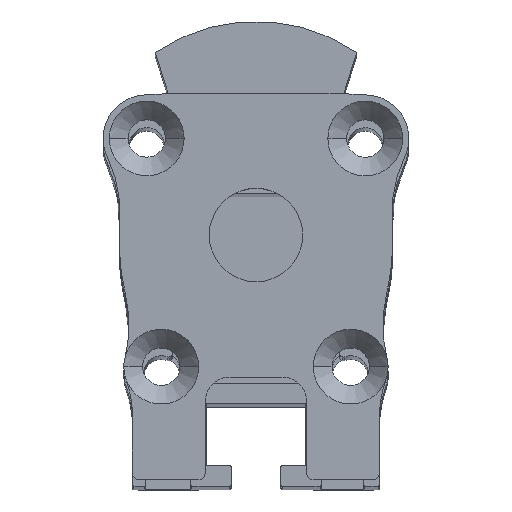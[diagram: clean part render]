
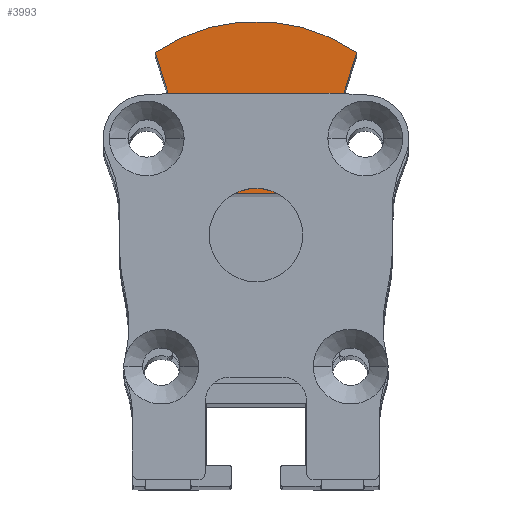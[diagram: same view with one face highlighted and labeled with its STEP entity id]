
A CAD part, top view. The second image highlights one B-rep face of the part: STEP entity #3993.
In plain terms, the highlighted planar face has unit normal (0, 0, 1).
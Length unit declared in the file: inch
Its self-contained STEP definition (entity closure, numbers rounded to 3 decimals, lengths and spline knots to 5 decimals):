
#3993=ADVANCED_FACE('',(#7809),#7810,.T.);
#4001=EDGE_CURVE('',#7813,#7819,#7822,.T.);
#4007=EDGE_CURVE('',#7827,#7819,#7830,.F.);
#4029=EDGE_CURVE('',#7861,#7862,#7863,.F.);
#4035=EDGE_CURVE('',#7869,#7870,#7871,.F.);
#4041=EDGE_CURVE('',#7870,#7861,#7877,.F.);
#4043=EDGE_CURVE('',#7869,#7879,#7880,.F.);
#4047=EDGE_CURVE('',#7813,#7862,#7884,.F.);
#4049=EDGE_CURVE('',#7886,#7887,#7888,.F.);
#4055=EDGE_CURVE('',#7827,#7894,#7895,.F.);
#4059=EDGE_CURVE('',#7894,#7886,#7899,.F.);
#4063=EDGE_CURVE('',#7901,#7887,#7904,.F.);
#4065=EDGE_CURVE('',#7879,#7901,#7906,.F.);
#7809=FACE_OUTER_BOUND('',#17732,.T.);
#7810=PLANE('',#17733);
#7813=VERTEX_POINT('',#17737);
#7819=VERTEX_POINT('',#17747);
#7822=LINE('',#17752,#17753);
#7827=VERTEX_POINT('',#17761);
#7830=LINE('',#17766,#17767);
#7861=VERTEX_POINT('',#17818);
#7862=VERTEX_POINT('',#17819);
#7863=LINE('',#17820,#17821);
#7869=VERTEX_POINT('',#17832);
#7870=VERTEX_POINT('',#17833);
#7871=LINE('',#17834,#17835);
#7877=LINE('',#17846,#17847);
#7879=VERTEX_POINT('',#17850);
#7880=LINE('',#17851,#17852);
#7884=LINE('',#17859,#17860);
#7886=VERTEX_POINT('',#17863);
#7887=VERTEX_POINT('',#17864);
#7888=LINE('',#17865,#17866);
#7894=VERTEX_POINT('',#17877);
#7895=LINE('',#17878,#17879);
#7899=LINE('',#17886,#17887);
#7901=VERTEX_POINT('',#17890);
#7904=LINE('',#17895,#17896);
#7906=CIRCLE('',#17899,0.56299);
#17732=EDGE_LOOP('',(#23441,#23442,#23443,#23444,#23445,#23446,#23447,#23448,#23449,#23450,#23451,#23452));
#17733=AXIS2_PLACEMENT_3D('',#23453,#23454,#23455);
#17737=CARTESIAN_POINT('',(-0.17932,0.15296,-4.59404));
#17747=CARTESIAN_POINT('',(0.17932,0.15296,-4.59404));
#17752=CARTESIAN_POINT('',(0.,0.15296,-4.59404));
#17753=VECTOR('',#23459,1.0);
#17761=CARTESIAN_POINT('',(0.26301,0.4208,-4.59404));
#17766=CARTESIAN_POINT('',(0.19145,0.19179,-4.59404));
#17767=VECTOR('',#23462,1.0);
#17818=CARTESIAN_POINT('',(-0.21005,0.4208,-4.59404));
#17819=CARTESIAN_POINT('',(-0.26301,0.4208,-4.59404));
#17820=CARTESIAN_POINT('',(-0.12298,0.4208,-4.59404));
#17821=VECTOR('',#23475,1.0);
#17832=CARTESIAN_POINT('',(-0.27532,0.46017,-4.59404));
#17833=CARTESIAN_POINT('',(-0.21005,0.46017,-4.59404));
#17834=CARTESIAN_POINT('',(-0.12298,0.46017,-4.59404));
#17835=VECTOR('',#23478,1.0);
#17846=CARTESIAN_POINT('',(-0.21005,0.35333,-4.59404));
#17847=VECTOR('',#23481,1.0);
#17850=CARTESIAN_POINT('',(-0.31832,0.59777,-4.59404));
#17851=CARTESIAN_POINT('',(-0.19145,0.19179,-4.59404));
#17852=VECTOR('',#23482,1.0);
#17859=CARTESIAN_POINT('',(-0.19145,0.19179,-4.59404));
#17860=VECTOR('',#23484,1.0);
#17863=CARTESIAN_POINT('',(0.20856,0.46017,-4.59404));
#17864=CARTESIAN_POINT('',(0.27532,0.46017,-4.59404));
#17865=CARTESIAN_POINT('',(0.12223,0.46017,-4.59404));
#17866=VECTOR('',#23485,1.0);
#17877=CARTESIAN_POINT('',(0.20856,0.4208,-4.59404));
#17878=CARTESIAN_POINT('',(0.12223,0.4208,-4.59404));
#17879=VECTOR('',#23488,1.0);
#17886=CARTESIAN_POINT('',(0.20856,0.35333,-4.59404));
#17887=VECTOR('',#23490,1.0);
#17890=CARTESIAN_POINT('',(0.31832,0.59777,-4.59404));
#17895=CARTESIAN_POINT('',(0.19145,0.19179,-4.59404));
#17896=VECTOR('',#23492,1.0);
#17899=AXIS2_PLACEMENT_3D('',#23493,#23494,#23495);
#23441=ORIENTED_EDGE('',*,*,#4001,.T.);
#23442=ORIENTED_EDGE('',*,*,#4007,.F.);
#23443=ORIENTED_EDGE('',*,*,#4055,.T.);
#23444=ORIENTED_EDGE('',*,*,#4059,.T.);
#23445=ORIENTED_EDGE('',*,*,#4049,.T.);
#23446=ORIENTED_EDGE('',*,*,#4063,.F.);
#23447=ORIENTED_EDGE('',*,*,#4065,.F.);
#23448=ORIENTED_EDGE('',*,*,#4043,.F.);
#23449=ORIENTED_EDGE('',*,*,#4035,.T.);
#23450=ORIENTED_EDGE('',*,*,#4041,.T.);
#23451=ORIENTED_EDGE('',*,*,#4029,.T.);
#23452=ORIENTED_EDGE('',*,*,#4047,.F.);
#23453=CARTESIAN_POINT('',(0.,0.26619,-4.59404));
#23454=DIRECTION('',(0.,0.,1.0));
#23455=DIRECTION('',(1.0,0.0,0.));
#23459=DIRECTION('',(1.0,0.0,0.));
#23462=DIRECTION('',(0.298,0.954,0.));
#23475=DIRECTION('',(1.0,0.0,0.));
#23478=DIRECTION('',(-1.0,0.0,0.));
#23481=DIRECTION('',(-0.0,1.0,0.));
#23482=DIRECTION('',(0.298,-0.954,0.));
#23484=DIRECTION('',(0.298,-0.954,0.));
#23485=DIRECTION('',(-1.0,0.0,0.));
#23488=DIRECTION('',(1.0,0.0,0.));
#23490=DIRECTION('',(-0.0,-1.0,0.));
#23492=DIRECTION('',(0.298,0.954,0.));
#23493=CARTESIAN_POINT('',(0.,0.13341,-4.59404));
#23494=DIRECTION('',(0.,0.,1.0));
#23495=DIRECTION('',(1.0,0.,0.));
